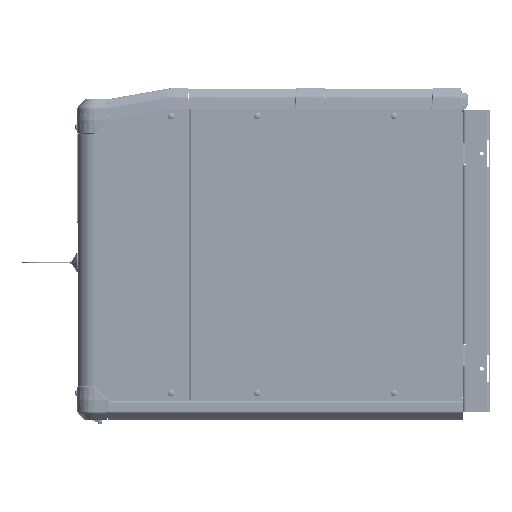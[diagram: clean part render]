
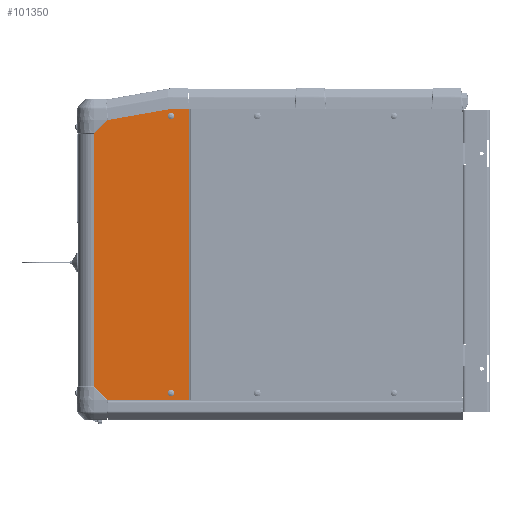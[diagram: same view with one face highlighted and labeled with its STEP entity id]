
A CAD part, left-side view. The second image highlights one B-rep face of the part: STEP entity #101350.
In plain terms, the highlighted planar face has unit normal (-1, 0, 0).
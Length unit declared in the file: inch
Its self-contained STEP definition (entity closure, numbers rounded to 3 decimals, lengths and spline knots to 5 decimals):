
#9157 = DIRECTION ( 'NONE',  ( 0., -1., 0. ) ) ;
#17976 = AXIS2_PLACEMENT_3D ( 'NONE', #433777, #364822, #50138 ) ;
#19422 = CARTESIAN_POINT ( 'NONE',  ( -6.875, -1.205, 10.607 ) ) ;
#19915 = DIRECTION ( 'NONE',  ( 0., 0., -1. ) ) ;
#25319 = CARTESIAN_POINT ( 'NONE',  ( -6.875, -6.812, -10.107 ) ) ;
#26934 = CARTESIAN_POINT ( 'NONE',  ( -6.875, -6.812, 10.107 ) ) ;
#27008 = LINE ( 'NONE', #445177, #351770 ) ;
#36090 = CIRCLE ( 'NONE', #138770, 0.125 ) ;
#45687 = VERTEX_POINT ( 'NONE', #408441 ) ;
#46883 = DIRECTION ( 'NONE',  ( 0., 0.707, 0.707 ) ) ;
#50138 = DIRECTION ( 'NONE',  ( 0., 1., 0. ) ) ;
#51708 = ORIENTED_EDGE ( 'NONE', *, *, #67972, .T. ) ;
#57740 = CARTESIAN_POINT ( 'NONE',  ( -6.875, -6.812, -9.9665 ) ) ;
#60237 = CIRCLE ( 'NONE', #427195, 0.1405 ) ;
#63870 = ORIENTED_EDGE ( 'NONE', *, *, #221740, .T. ) ;
#66708 = CARTESIAN_POINT ( 'NONE',  ( -6.875, -8.158, 10.482 ) ) ;
#67972 = EDGE_CURVE ( 'NONE', #350986, #362773, #60237, .T. ) ;
#68888 = DIRECTION ( 'NONE',  ( 0., 1., 0. ) ) ;
#69448 = DIRECTION ( 'NONE',  ( 0., 1., 0. ) ) ;
#75948 = ORIENTED_EDGE ( 'NONE', *, *, #283127, .T. ) ;
#83872 = PLANE ( 'NONE',  #173158 ) ;
#86377 = ORIENTED_EDGE ( 'NONE', *, *, #405495, .T. ) ;
#89214 = VERTEX_POINT ( 'NONE', #283432 ) ;
#91605 = CARTESIAN_POINT ( 'NONE',  ( -6.875, -6.71, 10.607 ) ) ;
#92884 = ORIENTED_EDGE ( 'NONE', *, *, #180674, .T. ) ;
#95895 = DIRECTION ( 'NONE',  ( 1., 0., 0. ) ) ;
#101350 = ADVANCED_FACE ( 'NONE', ( #370819, #226158, #327338 ), #83872, .F. ) ;
#104222 = DIRECTION ( 'NONE',  ( 0., 1., 0. ) ) ;
#108304 = VERTEX_POINT ( 'NONE', #331073 ) ;
#109051 = DIRECTION ( 'NONE',  ( 0., 0.707, -0.707 ) ) ;
#122642 = CARTESIAN_POINT ( 'NONE',  ( -6.875, -8.033, 10.482 ) ) ;
#125151 = AXIS2_PLACEMENT_3D ( 'NONE', #26934, #95895, #412821 ) ;
#125378 = VECTOR ( 'NONE', #272424, 39.37008 ) ;
#128999 = EDGE_CURVE ( 'NONE', #145276, #108304, #248088, .T. ) ;
#130469 = DIRECTION ( 'NONE',  ( 0., -0.985, 0.174 ) ) ;
#132340 = CARTESIAN_POINT ( 'NONE',  ( -6.875, -1.205, -10.607 ) ) ;
#134048 = VECTOR ( 'NONE', #19915, 39.37008 ) ;
#138770 = AXIS2_PLACEMENT_3D ( 'NONE', #122642, #368429, #228262 ) ;
#141262 = EDGE_CURVE ( 'NONE', #45687, #348299, #294968, .T. ) ;
#142519 = CARTESIAN_POINT ( 'NONE',  ( -6.875, -1.205, 10.607 ) ) ;
#144787 = VERTEX_POINT ( 'NONE', #216389 ) ;
#145276 = VERTEX_POINT ( 'NONE', #91605 ) ;
#148048 = LINE ( 'NONE', #423731, #358906 ) ;
#151720 = VECTOR ( 'NONE', #416671, 39.37008 ) ;
#159530 = DIRECTION ( 'NONE',  ( 1., 0., 0. ) ) ;
#173158 = AXIS2_PLACEMENT_3D ( 'NONE', #19422, #159530, #336389 ) ;
#177073 = EDGE_CURVE ( 'NONE', #45687, #89214, #198965, .T. ) ;
#177534 = AXIS2_PLACEMENT_3D ( 'NONE', #283350, #285581, #104222 ) ;
#180674 = EDGE_CURVE ( 'NONE', #144787, #295371, #430286, .T. ) ;
#184097 = CARTESIAN_POINT ( 'NONE',  ( -6.875, -6.812, 10.107 ) ) ;
#187011 = CARTESIAN_POINT ( 'NONE',  ( -6.875, -2.19001, -10.607 ) ) ;
#188271 = EDGE_CURVE ( 'NONE', #313171, #275383, #405816, .T. ) ;
#188342 = EDGE_LOOP ( 'NONE', ( #92884, #86377 ) ) ;
#198965 = LINE ( 'NONE', #132340, #125378 ) ;
#203452 = VERTEX_POINT ( 'NONE', #388962 ) ;
#206544 = ORIENTED_EDGE ( 'NONE', *, *, #290661, .T. ) ;
#209881 = LINE ( 'NONE', #214418, #151720 ) ;
#210698 = CARTESIAN_POINT ( 'NONE',  ( -6.875, -8.158, -10.482 ) ) ;
#214418 = CARTESIAN_POINT ( 'NONE',  ( -6.875, -1.205, 10.607 ) ) ;
#214612 = EDGE_CURVE ( 'NONE', #432395, #348299, #209881, .T. ) ;
#216389 = CARTESIAN_POINT ( 'NONE',  ( -6.875, -6.812, 9.9665 ) ) ;
#221740 = EDGE_CURVE ( 'NONE', #362773, #350986, #265394, .T. ) ;
#226158 = FACE_BOUND ( 'NONE', #422126, .T. ) ;
#228262 = DIRECTION ( 'NONE',  ( 0., 1., 0. ) ) ;
#230956 = ORIENTED_EDGE ( 'NONE', *, *, #128999, .F. ) ;
#248088 = LINE ( 'NONE', #142519, #317183 ) ;
#265394 = CIRCLE ( 'NONE', #177534, 0.1405 ) ;
#269104 = CARTESIAN_POINT ( 'NONE',  ( -6.875, -1.205, -9.62199 ) ) ;
#272424 = DIRECTION ( 'NONE',  ( 0., -1., 0. ) ) ;
#275383 = VERTEX_POINT ( 'NONE', #210698 ) ;
#283127 = EDGE_CURVE ( 'NONE', #313171, #108304, #36090, .T. ) ;
#283350 = CARTESIAN_POINT ( 'NONE',  ( -6.875, -6.812, -10.107 ) ) ;
#283432 = CARTESIAN_POINT ( 'NONE',  ( -6.875, -8.033, -10.607 ) ) ;
#285581 = DIRECTION ( 'NONE',  ( 1., 0., 0. ) ) ;
#288072 = ORIENTED_EDGE ( 'NONE', *, *, #188271, .F. ) ;
#290661 = EDGE_CURVE ( 'NONE', #89214, #275383, #333446, .T. ) ;
#294968 = LINE ( 'NONE', #187011, #437978 ) ;
#295371 = VERTEX_POINT ( 'NONE', #394878 ) ;
#313171 = VERTEX_POINT ( 'NONE', #66708 ) ;
#317183 = VECTOR ( 'NONE', #9157, 39.37008 ) ;
#323188 = CIRCLE ( 'NONE', #125151, 0.1405 ) ;
#323284 = ORIENTED_EDGE ( 'NONE', *, *, #214612, .T. ) ;
#327338 = FACE_OUTER_BOUND ( 'NONE', #446596, .T. ) ;
#331073 = CARTESIAN_POINT ( 'NONE',  ( -6.875, -8.033, 10.607 ) ) ;
#333446 = CIRCLE ( 'NONE', #17976, 0.125 ) ;
#334903 = AXIS2_PLACEMENT_3D ( 'NONE', #184097, #351916, #69448 ) ;
#336389 = DIRECTION ( 'NONE',  ( 0., 1., 0. ) ) ;
#338902 = CARTESIAN_POINT ( 'NONE',  ( -6.875, -1.205, 8.82215 ) ) ;
#342230 = ORIENTED_EDGE ( 'NONE', *, *, #177073, .T. ) ;
#348299 = VERTEX_POINT ( 'NONE', #269104 ) ;
#350986 = VERTEX_POINT ( 'NONE', #420958 ) ;
#351770 = VECTOR ( 'NONE', #130469, 39.37008 ) ;
#351916 = DIRECTION ( 'NONE',  ( 1., 0., 0. ) ) ;
#358906 = VECTOR ( 'NONE', #109051, 39.37008 ) ;
#362773 = VERTEX_POINT ( 'NONE', #57740 ) ;
#364067 = ORIENTED_EDGE ( 'NONE', *, *, #141262, .F. ) ;
#364822 = DIRECTION ( 'NONE',  ( -1., 0., 0. ) ) ;
#368429 = DIRECTION ( 'NONE',  ( -1., 0., 0. ) ) ;
#370819 = FACE_BOUND ( 'NONE', #188342, .T. ) ;
#383561 = DIRECTION ( 'NONE',  ( 1., 0., 0. ) ) ;
#388962 = CARTESIAN_POINT ( 'NONE',  ( -6.875, -2.19347, 9.81061 ) ) ;
#394878 = CARTESIAN_POINT ( 'NONE',  ( -6.875, -6.812, 10.2475 ) ) ;
#403540 = CARTESIAN_POINT ( 'NONE',  ( -6.875, -8.158, 10.607 ) ) ;
#405495 = EDGE_CURVE ( 'NONE', #295371, #144787, #323188, .T. ) ;
#405816 = LINE ( 'NONE', #403540, #134048 ) ;
#408441 = CARTESIAN_POINT ( 'NONE',  ( -6.875, -2.19001, -10.607 ) ) ;
#412821 = DIRECTION ( 'NONE',  ( 0., 1., 0. ) ) ;
#416671 = DIRECTION ( 'NONE',  ( 0., 0., -1. ) ) ;
#420958 = CARTESIAN_POINT ( 'NONE',  ( -6.875, -6.812, -10.2475 ) ) ;
#421445 = ORIENTED_EDGE ( 'NONE', *, *, #448681, .T. ) ;
#422126 = EDGE_LOOP ( 'NONE', ( #51708, #63870 ) ) ;
#423731 = CARTESIAN_POINT ( 'NONE',  ( -6.875, -2.09743, 9.71457 ) ) ;
#427195 = AXIS2_PLACEMENT_3D ( 'NONE', #25319, #383561, #68888 ) ;
#430286 = CIRCLE ( 'NONE', #334903, 0.1405 ) ;
#430629 = ORIENTED_EDGE ( 'NONE', *, *, #446928, .F. ) ;
#432395 = VERTEX_POINT ( 'NONE', #338902 ) ;
#433777 = CARTESIAN_POINT ( 'NONE',  ( -6.875, -8.033, -10.482 ) ) ;
#437978 = VECTOR ( 'NONE', #46883, 39.37008 ) ;
#445177 = CARTESIAN_POINT ( 'NONE',  ( -6.875, -2.19347, 9.81061 ) ) ;
#446596 = EDGE_LOOP ( 'NONE', ( #230956, #430629, #421445, #323284, #364067, #342230, #206544, #288072, #75948 ) ) ;
#446928 = EDGE_CURVE ( 'NONE', #203452, #145276, #27008, .T. ) ;
#448681 = EDGE_CURVE ( 'NONE', #203452, #432395, #148048, .T. ) ;
